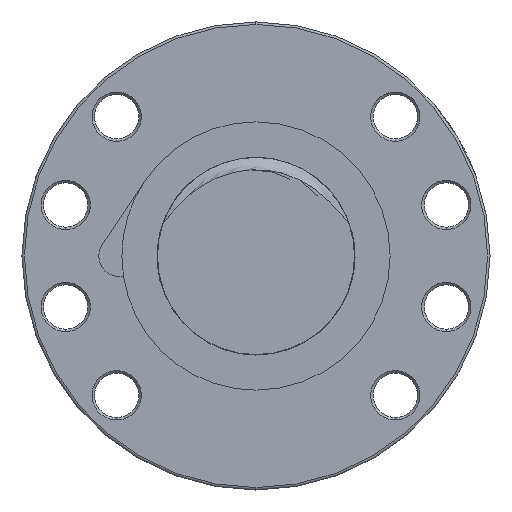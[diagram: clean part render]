
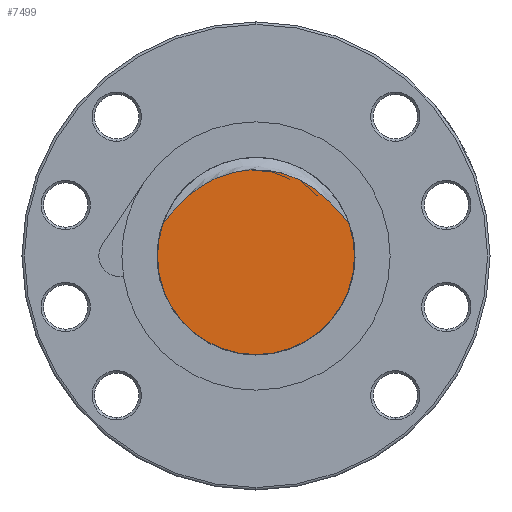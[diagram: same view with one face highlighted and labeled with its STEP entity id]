
A CAD part, left-side view. The second image highlights one B-rep face of the part: STEP entity #7499.
In plain terms, the highlighted planar face has unit normal (-1, 0, 0).
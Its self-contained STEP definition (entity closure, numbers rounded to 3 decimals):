
#6976 = EDGE_CURVE ( 'NONE', #6977, #7212, #14528, .T. ) ;
#6977 = VERTEX_POINT ( 'NONE', #14515 ) ;
#7143 = VERTEX_POINT ( 'NONE', #12394 ) ;
#7212 = VERTEX_POINT ( 'NONE', #13106 ) ;
#7228 = EDGE_CURVE ( 'NONE', #7212, #7143, #13306, .T. ) ;
#7499 = ADVANCED_FACE ( 'NONE', ( #17425 ), #17424, .F. ) ;
#7500 = EDGE_LOOP ( 'NONE', ( #7501, #7502, #7505 ) ) ;
#7501 = ORIENTED_EDGE ( 'NONE', *, *, #6976, .F. ) ;
#7502 = ORIENTED_EDGE ( 'NONE', *, *, #7503, .T. ) ;
#7503 = EDGE_CURVE ( 'NONE', #6977, #7143, #17619, .T. ) ;
#7505 = ORIENTED_EDGE ( 'NONE', *, *, #7228, .F. ) ;
#12394 = CARTESIAN_POINT ( 'NONE',  ( -188., 18.82, 6.767 ) ) ;
#13106 = CARTESIAN_POINT ( 'NONE',  ( -188., 0., -20. ) ) ;
#13304 = AXIS2_PLACEMENT_3D ( 'NONE', #13491, #13490, #13487 ) ;
#13306 = CIRCLE ( 'NONE', #13304, 20. ) ;
#13487 = DIRECTION ( 'NONE',  ( 0., 1., 0. ) ) ;
#13490 = DIRECTION ( 'NONE',  ( 1., 0., 0. ) ) ;
#13491 = CARTESIAN_POINT ( 'NONE',  ( -188., 0., 0. ) ) ;
#14515 = CARTESIAN_POINT ( 'NONE',  ( -188., -18.821, 6.765 ) ) ;
#14518 = DIRECTION ( 'NONE',  ( 0., 1., 0. ) ) ;
#14521 = DIRECTION ( 'NONE',  ( 1., 0., 0. ) ) ;
#14524 = CARTESIAN_POINT ( 'NONE',  ( -188., 0., 0. ) ) ;
#14526 = AXIS2_PLACEMENT_3D ( 'NONE', #14524, #14521, #14518 ) ;
#14528 = CIRCLE ( 'NONE', #14526, 20. ) ;
#17421 = DIRECTION ( 'NONE',  ( 1., 0., 0. ) ) ;
#17422 = CARTESIAN_POINT ( 'NONE',  ( -188., 0., 0. ) ) ;
#17423 = AXIS2_PLACEMENT_3D ( 'NONE', #17422, #17421, #17621 ) ;
#17424 = PLANE ( 'NONE',  #17423 ) ;
#17425 = FACE_OUTER_BOUND ( 'NONE', #7500, .T. ) ;
#17569 = CARTESIAN_POINT ( 'NONE',  ( -188., 18.82, 6.767 ) ) ;
#17570 = CARTESIAN_POINT ( 'NONE',  ( -188., 18.642, 6.921 ) ) ;
#17571 = CARTESIAN_POINT ( 'NONE',  ( -188., 18.477, 7.09 ) ) ;
#17572 = CARTESIAN_POINT ( 'NONE',  ( -188., 18.156, 7.435 ) ) ;
#17573 = CARTESIAN_POINT ( 'NONE',  ( -188., 18., 7.612 ) ) ;
#17574 = CARTESIAN_POINT ( 'NONE',  ( -188., 17.537, 8.147 ) ) ;
#17575 = CARTESIAN_POINT ( 'NONE',  ( -188., 17.234, 8.509 ) ) ;
#17576 = CARTESIAN_POINT ( 'NONE',  ( -188., 16.314, 9.584 ) ) ;
#17577 = CARTESIAN_POINT ( 'NONE',  ( -188., 15.684, 10.287 ) ) ;
#17578 = CARTESIAN_POINT ( 'NONE',  ( -188., 14.362, 11.619 ) ) ;
#17579 = CARTESIAN_POINT ( 'NONE',  ( -188., 13.671, 12.249 ) ) ;
#17580 = CARTESIAN_POINT ( 'NONE',  ( -188., 12.578, 13.131 ) ) ;
#17581 = CARTESIAN_POINT ( 'NONE',  ( -188., 12.204, 13.414 ) ) ;
#17582 = CARTESIAN_POINT ( 'NONE',  ( -188., 11.436, 13.957 ) ) ;
#17583 = CARTESIAN_POINT ( 'NONE',  ( -188., 11.041, 14.218 ) ) ;
#17590 = CARTESIAN_POINT ( 'NONE',  ( -188., 9.834, 14.961 ) ) ;
#17591 = CARTESIAN_POINT ( 'NONE',  ( -188., 9.005, 15.399 ) ) ;
#17592 = CARTESIAN_POINT ( 'NONE',  ( -188., 7.301, 16.158 ) ) ;
#17593 = CARTESIAN_POINT ( 'NONE',  ( -188., 6.425, 16.48 ) ) ;
#17594 = CARTESIAN_POINT ( 'NONE',  ( -188., 4.624, 17.001 ) ) ;
#17595 = CARTESIAN_POINT ( 'NONE',  ( -188., 3.691, 17.2 ) ) ;
#17596 = CARTESIAN_POINT ( 'NONE',  ( -188., 1.83, 17.46 ) ) ;
#17597 = CARTESIAN_POINT ( 'NONE',  ( -188., 0.898, 17.524 ) ) ;
#17598 = CARTESIAN_POINT ( 'NONE',  ( -188., -0.972, 17.522 ) ) ;
#17599 = CARTESIAN_POINT ( 'NONE',  ( -188., -1.912, 17.455 ) ) ;
#17600 = CARTESIAN_POINT ( 'NONE',  ( -188., -3.786, 17.183 ) ) ;
#17601 = CARTESIAN_POINT ( 'NONE',  ( -188., -4.702, 16.98 ) ) ;
#17602 = CARTESIAN_POINT ( 'NONE',  ( -188., -6.496, 16.454 ) ) ;
#17603 = CARTESIAN_POINT ( 'NONE',  ( -188., -7.374, 16.129 ) ) ;
#17604 = CARTESIAN_POINT ( 'NONE',  ( -188., -8.661, 15.55 ) ) ;
#17605 = CARTESIAN_POINT ( 'NONE',  ( -188., -9.088, 15.341 ) ) ;
#17606 = CARTESIAN_POINT ( 'NONE',  ( -188., -9.92, 14.897 ) ) ;
#17607 = CARTESIAN_POINT ( 'NONE',  ( -188., -10.326, 14.662 ) ) ;
#17608 = CARTESIAN_POINT ( 'NONE',  ( -188., -12.307, 13.429 ) ) ;
#17609 = CARTESIAN_POINT ( 'NONE',  ( -188., -13.735, 12.251 ) ) ;
#17610 = CARTESIAN_POINT ( 'NONE',  ( -188., -15.701, 10.27 ) ) ;
#17611 = CARTESIAN_POINT ( 'NONE',  ( -188., -16.326, 9.573 ) ) ;
#17612 = CARTESIAN_POINT ( 'NONE',  ( -188., -17.242, 8.502 ) ) ;
#17613 = CARTESIAN_POINT ( 'NONE',  ( -188., -17.543, 8.142 ) ) ;
#17614 = CARTESIAN_POINT ( 'NONE',  ( -188., -18.004, 7.609 ) ) ;
#17615 = CARTESIAN_POINT ( 'NONE',  ( -188., -18.159, 7.432 ) ) ;
#17616 = CARTESIAN_POINT ( 'NONE',  ( -188., -18.478, 7.088 ) ) ;
#17617 = CARTESIAN_POINT ( 'NONE',  ( -188., -18.643, 6.919 ) ) ;
#17618 = CARTESIAN_POINT ( 'NONE',  ( -188., -18.821, 6.765 ) ) ;
#17619 = B_SPLINE_CURVE_WITH_KNOTS ( 'NONE', 3,
 ( #17618, #17617, #17616, #17615, #17614, #17613, #17612, #17611, #17610, #17609, #17608, #17607, #17606, #17605, #17604, #17603, #17602, #17601, #17600, #17599, #17598, #17597, #17596, #17595, #17594, #17593, #17592, #17591, #17590, #17583, #17582, #17581, #17580, #17579, #17578, #17577, #17576, #17575, #17574, #17573, #17572, #17571, #17570, #17569 ),
 .UNSPECIFIED., .F., .F.,
 ( 4, 2, 2, 2, 2, 2, 2, 2, 2, 2, 2, 2, 2, 2, 2, 2, 2, 2, 2, 2, 2, 4 ),
 ( 0.018, 0.018, 0.019, 0.02, 0.023, 0.029, 0.03, 0.031, 0.034, 0.037, 0.04, 0.042, 0.045, 0.048, 0.051, 0.052, 0.053, 0.056, 0.059, 0.06, 0.061, 0.062 ),
 .UNSPECIFIED. ) ;
#17621 = DIRECTION ( 'NONE',  ( 0., 0., -1. ) ) ;
